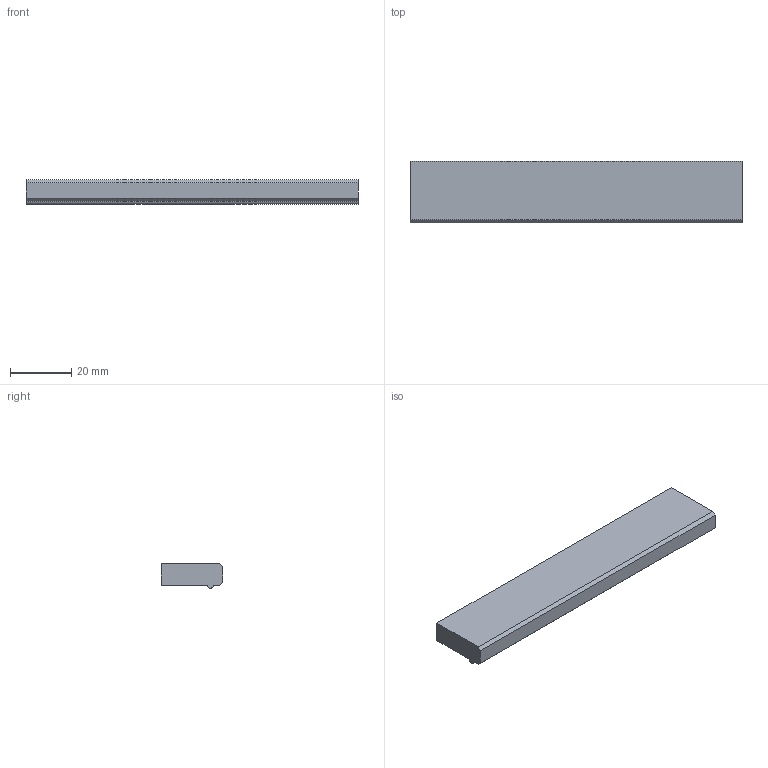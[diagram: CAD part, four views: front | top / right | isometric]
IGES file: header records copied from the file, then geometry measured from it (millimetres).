
Start section: Data from Parasolid IGES Translator 15.0.47, Copyright(c) 2006 Siemens P LM Software. All Rights Reserved.
Global section: file name: 115023.igs; native system:  By UGS Corp.; preprocessor: XPlus GENERIC/IGES 3.0; author: Noname; organization: Noname; date: 20140122.182746; units: millimetre
Bounding box: 108 x 20 x 8 mm (x, y, z)
Surface area: 6311 mm2 (no closed solid volume)
Topology: 0 solids, 0 shells, 14 faces, 60 edges, 58 vertices
Faces by surface type: extrusion 11, revolution 3
